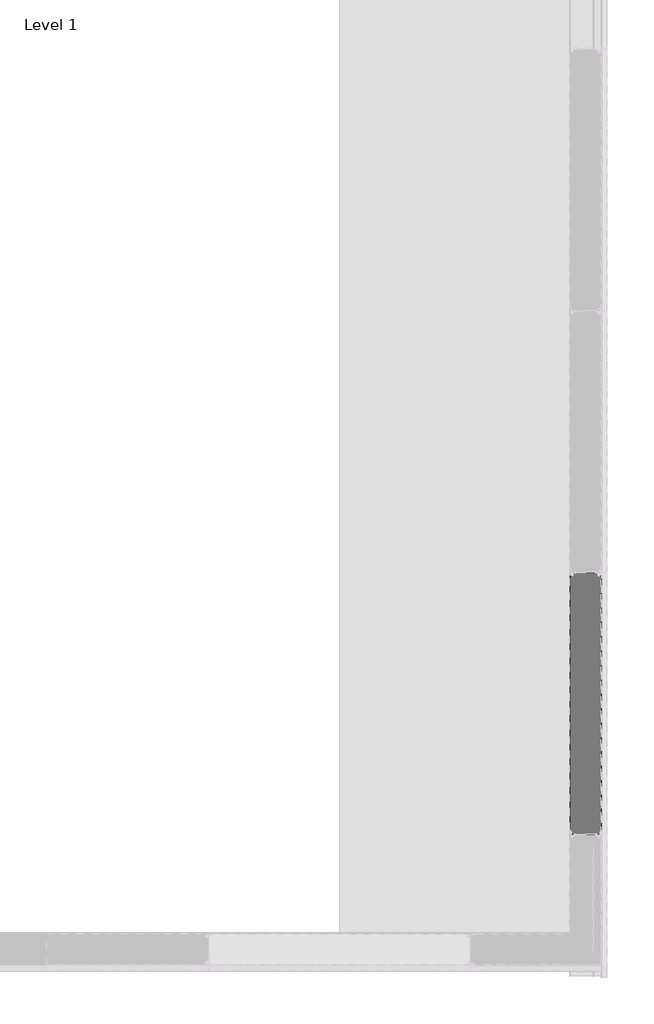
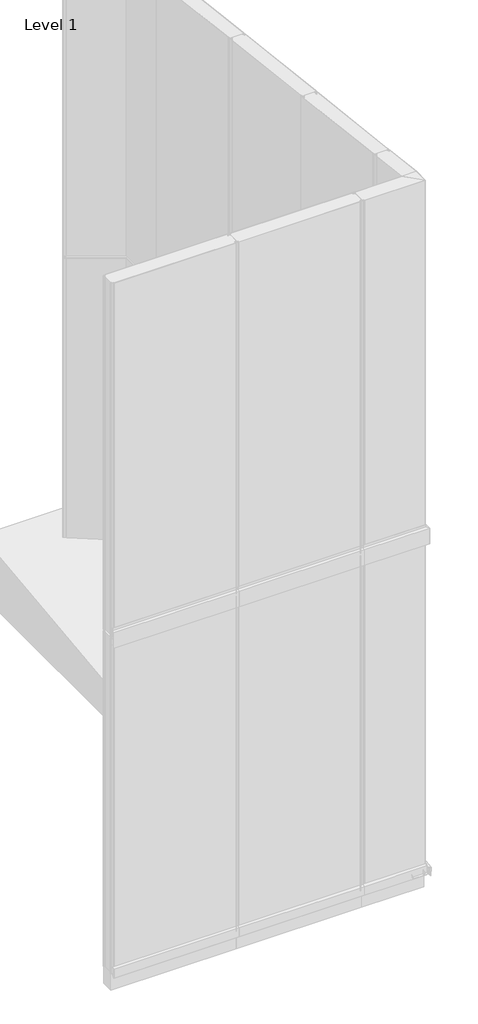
# One storey, part 4 of 16: 1 plate.
"""IFC4 building model written with IfcOpenShell, lengths in millimetres."""

from ifc_helpers import new_model, si_unit, frame, origin, place, context, project, spatial, polyline, circle_curve, ellipse_curve, element, save
from ifc_brep_helpers import plane_surface, cylinder_surface, revolved_surface, advanced_brep

model = new_model("IFC4")

# Units and contexts
model_context = context("Model", 3, world=origin())
ifc_project = project(units=[si_unit("LENGTHUNIT", "METRE", prefix="MILLI")], contexts=[model_context])

# Site, building, storey
site = spatial("IfcSite", under=ifc_project)
building = spatial("IfcBuilding", under=site)
storey = spatial("IfcBuildingStorey", under=building, Name="Level 1", Elevation=0.0)

# Plate
placement = place(None, origin())
element("IfcPlate", 1, ObjectType="TR_C_V_FTV_Panel : 120/RAL9006/RAL9002", at=placement, inside=storey, context=model_context, shape_type="AdvancedBrep", body=[
    advanced_brep(
    [(-11.0024729, 4469.8069107, 2980.0), (-15.1155057, 4469.8069107, 2980.0), (-15.1155057, 4469.0069107, 2980.0), (-11.0024729, 4469.0069107, 2980.0), (-7.3094438, 4465.9080913, 2980.0), (-6.5661308, 4461.6925541, 2980.0), (-0.1155057, 4462.2569107, 2980.0), (-0.1155057, 4477.0069107, 2980.0), (0.6167274, 4478.7746776, 2980.0), (5.0058147, 4483.1637649, 2980.0), (5.8844943, 4485.2850853, 2980.0), (5.8844943, 5474.6255398, 2980.0), (5.079038, 5476.5700835, 2980.0), (3.2133526, 5478.4357689, 2980.0), (-0.1155057, 5477.0569107, 2980.0), (-0.1155057, 5459.4569107, 2980.0), (-6.9630924, 5458.8578244, 2980.0), (-8.0299177, 5464.9080913, 2980.0), (-11.7229468, 5468.0069107, 2980.0), (-15.1155057, 5468.0069107, 2980.0), (-15.1155057, 5467.2069107, 2980.0), (-11.7229468, 5467.2069107, 2980.0), (-8.8177639, 5464.7691728, 2980.0), (-7.7509386, 5458.7189059, 2980.0), (0.6844943, 5459.4569107, 2980.0), (0.6844943, 5477.0569107, 2980.0), (2.6476671, 5477.8700835, 2980.0), (4.5133526, 5476.004398, 2980.0), (5.0844943, 5474.6255398, 2980.0), (5.0844943, 4485.2850853, 2980.0), (4.4401293, 4483.7294503, 2980.0), (0.051042, 4479.340363, 2980.0), (-0.9155057, 4477.0069107, 2980.0), (-0.9155057, 4462.2569107, 2980.0), (-5.7782846, 4461.8314726, 2980.0), (-6.5215976, 4466.0470099, 2980.0), (-11.0024729, 4469.8069107, 194.2093022), (-15.1155057, 4469.8069107, 194.2093022), (-15.1155057, 4469.0069107, 194.1162789), (-11.0024729, 4469.0069107, 194.1162789), (-7.3094438, 4465.9080913, 193.7559511), (-6.5661308, 4461.6925541, 193.2657723), (-0.1155057, 4462.2569107, 193.3313952), (-0.1155057, 4477.0069107, 195.0465115), (0.6167274, 4478.7746776, 195.2520658), (5.0058147, 4483.1637649, 195.7624247), (5.8844943, 4485.2850853, 196.0090899), (5.8844943, 5474.6255398, 311.0486776), (5.079038, 5476.5700835, 311.2747874), (3.2133526, 5478.4357689, 311.4917275), (-0.1155057, 5477.0569107, 311.3313952), (-0.1155057, 5459.4569107, 309.2848835), (-6.9630924, 5458.8578244, 309.2152224), (-8.0299177, 5464.9080913, 309.9187418), (-11.7229468, 5468.0069107, 310.2790696), (-15.1155057, 5468.0069107, 310.2790696), (-15.1155057, 5467.2069107, 310.1860463), (-11.7229468, 5467.2069107, 310.1860463), (-8.8177639, 5464.7691728, 309.9025884), (-7.7509386, 5458.7189059, 309.199069), (0.6844943, 5459.4569107, 309.2848835), (0.6844943, 5477.0569107, 311.3313952), (2.6476671, 5477.8700835, 311.4259502), (4.5133526, 5476.004398, 311.20901), (5.0844943, 5474.6255398, 311.0486776), (5.0844943, 4485.2850853, 196.0090899), (4.4401293, 4483.7294503, 195.8282021), (0.051042, 4479.340363, 195.3178431), (-0.9155057, 4477.0069107, 195.0465115), (-0.9155057, 4462.2569107, 193.3313952), (-5.7782846, 4461.8314726, 193.2819256), (-6.5215976, 4466.0470099, 193.7721044)],
    [
        (0, 1),
        (1, 2),
        (2, 3),
        (3, 4, circle_curve(frame((-11.0024729, 4465.2569107, 2980.0), z_axis=(0.0, 0.0, -1.0), x_axis=(0.0, -1.0, 0.0)), 3.75)),
        (4, 5),
        (5, 6, circle_curve(frame((-3.3655057, 4462.2569107, 2980.0), z_axis=(0.0, 0.0, 1.0), x_axis=(0.0, -1.0, 0.0)), 3.25)),
        (6, 7),
        (7, 8, circle_curve(frame((2.3844943, 4477.0069107, 2980.0), z_axis=(0.0, 0.0, -1.0), x_axis=(0.0, -1.0, 0.0)), 2.5)),
        (8, 9),
        (9, 10, circle_curve(frame((2.8844943, 4485.2850853, 2980.0), z_axis=(0.0, 0.0, 1.0), x_axis=(0.0, -1.0, 0.0)), 3.0)),
        (10, 11),
        (11, 12, circle_curve(frame((3.1344943, 5474.6255398, 2980.0), z_axis=(0.0, 0.0, 1.0), x_axis=(0.0, -1.0, 0.0)), 2.75)),
        (12, 13),
        (13, 14, circle_curve(frame((1.8344943, 5477.0569107, 2980.0), z_axis=(0.0, 0.0, 1.0), x_axis=(0.0, -1.0, 0.0)), 1.95)),
        (14, 15),
        (15, 16, circle_curve(frame((-3.5655057, 5459.4569107, 2980.0), z_axis=(0.0, 0.0, -1.0), x_axis=(0.0, -1.0, 0.0)), 3.45)),
        (16, 17),
        (17, 18, circle_curve(frame((-11.7229468, 5464.2569107, 2980.0), z_axis=(0.0, 0.0, 1.0), x_axis=(0.0, -1.0, 0.0)), 3.75)),
        (18, 19),
        (19, 20),
        (20, 21),
        (21, 22, circle_curve(frame((-11.7229468, 5464.2569107, 2980.0), z_axis=(0.0, 0.0, -1.0), x_axis=(0.0, -1.0, 0.0)), 2.95)),
        (22, 23),
        (23, 24, circle_curve(frame((-3.5655057, 5459.4569107, 2980.0), z_axis=(0.0, 0.0, 1.0), x_axis=(0.0, -1.0, 0.0)), 4.25)),
        (24, 25),
        (25, 26, circle_curve(frame((1.8344943, 5477.0569107, 2980.0), z_axis=(0.0, 0.0, -1.0), x_axis=(0.0, -1.0, 0.0)), 1.15)),
        (26, 27),
        (27, 28, circle_curve(frame((3.1344943, 5474.6255398, 2980.0), z_axis=(0.0, 0.0, -1.0), x_axis=(0.0, -1.0, 0.0)), 1.95)),
        (28, 29),
        (29, 30, circle_curve(frame((2.8844943, 4485.2850853, 2980.0), z_axis=(0.0, 0.0, -1.0), x_axis=(0.0, -1.0, 0.0)), 2.2)),
        (30, 31),
        (31, 32, circle_curve(frame((2.3844943, 4477.0069107, 2980.0), z_axis=(0.0, 0.0, 1.0), x_axis=(0.0, -1.0, 0.0)), 3.3)),
        (32, 33),
        (33, 34, circle_curve(frame((-3.3655057, 4462.2569107, 2980.0), z_axis=(0.0, 0.0, -1.0), x_axis=(0.0, -1.0, 0.0)), 2.45)),
        (34, 35),
        (35, 0, circle_curve(frame((-11.0024729, 4465.2569107, 2980.0), z_axis=(0.0, 0.0, 1.0), x_axis=(0.0, -1.0, 0.0)), 4.55)),
        (0, 36),
        (36, 37),
        (37, 1),
        (37, 38),
        (38, 2),
        (38, 39),
        (39, 3),
        (39, 40, ellipse_curve(frame((-11.0024729, 4465.2569107, 193.6802324), z_axis=(0.0, 0.11550085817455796, -0.9933073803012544), x_axis=(0.0, -0.9933073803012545, -0.11550085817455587)), 3.7752664, 3.75)),
        (40, 4),
        (40, 41),
        (41, 5),
        (41, 42, ellipse_curve(frame((-3.3655057, 4462.2569107, 193.3313952), z_axis=(0.0, -0.11550085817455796, 0.9933073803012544), x_axis=(0.0, 0.9933073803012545, 0.11550085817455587)), 3.2718976, 3.25)),
        (42, 6),
        (42, 43),
        (43, 7),
        (43, 44, ellipse_curve(frame((2.3844943, 4477.0069107, 195.0465115), z_axis=(0.0, 0.11550085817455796, -0.9933073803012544), x_axis=(0.0, -0.9933073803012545, -0.11550085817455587)), 2.5168443, 2.5)),
        (44, 8),
        (44, 45),
        (45, 9),
        (45, 46, ellipse_curve(frame((2.8844943, 4485.2850853, 196.0090899), z_axis=(0.0, -0.11550085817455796, 0.9933073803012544), x_axis=(0.0, 0.9933073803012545, 0.11550085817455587)), 3.0202131, 3.0)),
        (46, 10),
        (46, 47),
        (47, 11),
        (47, 48, ellipse_curve(frame((3.1344943, 5474.6255398, 311.0486776), z_axis=(0.0, -0.11550085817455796, 0.9933073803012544), x_axis=(0.0, 0.9933073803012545, 0.11550085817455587)), 2.7685287, 2.75)),
        (48, 12),
        (48, 49),
        (49, 13),
        (49, 50, ellipse_curve(frame((1.8344943, 5477.0569107, 311.3313952), z_axis=(0.0, -0.11550085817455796, 0.9933073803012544), x_axis=(0.0, 0.9933073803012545, 0.11550085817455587)), 1.9631385, 1.95)),
        (50, 14),
        (50, 51),
        (51, 15),
        (51, 52, ellipse_curve(frame((-3.5655057, 5459.4569107, 309.2848835), z_axis=(0.0, 0.11550085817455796, -0.9933073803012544), x_axis=(0.0, -0.9933073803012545, -0.11550085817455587)), 3.4732451, 3.45)),
        (52, 16),
        (52, 53),
        (53, 17),
        (53, 54, ellipse_curve(frame((-11.7229468, 5464.2569107, 309.8430231), z_axis=(0.0, -0.11550085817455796, 0.9933073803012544), x_axis=(0.0, 0.9933073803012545, 0.11550085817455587)), 3.7752664, 3.75)),
        (54, 18),
        (54, 55),
        (55, 19),
        (55, 56),
        (56, 20),
        (56, 57),
        (57, 21),
        (57, 58, ellipse_curve(frame((-11.7229468, 5464.2569107, 309.8430231), z_axis=(0.0, 0.11550085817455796, -0.9933073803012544), x_axis=(0.0, -0.9933073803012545, -0.11550085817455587)), 2.9698763, 2.95)),
        (58, 22),
        (58, 59),
        (59, 23),
        (59, 60, ellipse_curve(frame((-3.5655057, 5459.4569107, 309.2848835), z_axis=(0.0, -0.11550085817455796, 0.9933073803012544), x_axis=(0.0, 0.9933073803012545, 0.11550085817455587)), 4.2786353, 4.25)),
        (60, 24),
        (60, 61),
        (61, 25),
        (61, 62, ellipse_curve(frame((1.8344943, 5477.0569107, 311.3313952), z_axis=(0.0, 0.11550085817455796, -0.9933073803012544), x_axis=(0.0, -0.9933073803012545, -0.11550085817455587)), 1.1577484, 1.15)),
        (62, 26),
        (62, 63),
        (63, 27),
        (63, 64, ellipse_curve(frame((3.1344943, 5474.6255398, 311.0486776), z_axis=(0.0, 0.11550085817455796, -0.9933073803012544), x_axis=(0.0, -0.9933073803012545, -0.11550085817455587)), 1.9631385, 1.95)),
        (64, 28),
        (64, 65),
        (65, 29),
        (65, 66, ellipse_curve(frame((2.8844943, 4485.2850853, 196.0090899), z_axis=(0.0, 0.11550085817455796, -0.9933073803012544), x_axis=(0.0, -0.9933073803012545, -0.11550085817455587)), 2.214823, 2.2)),
        (66, 30),
        (66, 67),
        (67, 31),
        (67, 68, ellipse_curve(frame((2.3844943, 4477.0069107, 195.0465115), z_axis=(0.0, -0.11550085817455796, 0.9933073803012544), x_axis=(0.0, 0.9933073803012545, 0.11550085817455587)), 3.3222345, 3.3)),
        (68, 32),
        (68, 69),
        (69, 33),
        (69, 70, ellipse_curve(frame((-3.3655057, 4462.2569107, 193.3313952), z_axis=(0.0, 0.11550085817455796, -0.9933073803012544), x_axis=(0.0, -0.9933073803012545, -0.11550085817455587)), 2.4665074, 2.45)),
        (70, 34),
        (70, 71),
        (71, 35),
        (71, 36, ellipse_curve(frame((-11.0024729, 4465.2569107, 193.6802324), z_axis=(0.0, -0.11550085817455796, 0.9933073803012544), x_axis=(0.0, 0.9933073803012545, 0.11550085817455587)), 4.5806566, 4.55)),
    ],
    [
        plane_surface(frame((-15.1155057, 4469.8069107, 2980.0), z_axis=(0.0, 0.0, 1.0), x_axis=(-1.0, 0.0, 0.0))),
        plane_surface(frame((-11.0024729, 4469.8069107, 2980.0), z_axis=(0.0, 1.0, 0.0), x_axis=(0.0, 0.0, -1.0))),
        plane_surface(frame((-15.1155057, 4469.8069107, 2980.0), z_axis=(-1.0, 0.0, 0.0), x_axis=(0.0, 0.0, -1.0))),
        plane_surface(frame((-15.1155057, 4469.0069107, 2980.0), z_axis=(0.0, -1.0, 0.0), x_axis=(0.0, 0.0, -1.0))),
        revolved_surface(polyline([(-11.0024729, 4461.5069107, 193.24418589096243), (-11.0024729, 4461.5069107, 2980.0)]), (-11.0024729, 4465.2569107, 150.0), (0.0, 0.0, -1.0)),
        plane_surface(frame((-7.3094438, 4465.9080913, 2980.0), z_axis=(-0.9848077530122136, -0.17364817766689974, 0.0), x_axis=(0.0, 0.0, -1.0))),
        cylinder_surface(frame((-3.3655057, 4462.2569107, 150.0), z_axis=(0.0, 0.0, 1.0), x_axis=(0.0, -1.0, 0.0)), 3.25),
        plane_surface(frame((-0.1155057, 4462.2569107, 2980.0), z_axis=(1.0, 0.0, 0.0), x_axis=(0.0, 0.0, -1.0))),
        revolved_surface(polyline([(2.3844943, 4474.5069107, 194.75581382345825), (2.3844943, 4474.5069107, 2980.0)]), (2.3844943, 4477.0069107, 150.0), (0.0, 0.0, -1.0)),
        plane_surface(frame((0.6167274, 4478.7746776, 2980.0), z_axis=(0.7071067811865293, -0.7071067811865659, 0.0), x_axis=(0.0, 0.0, -1.0))),
        cylinder_surface(frame((2.8844943, 4485.2850853, 150.0), z_axis=(0.0, 0.0, 1.0), x_axis=(0.0, -1.0, 0.0)), 3.0),
        plane_surface(frame((5.8844943, 4485.2850853, 2980.0), z_axis=(1.0, 0.0, 0.0), x_axis=(0.0, 0.0, -1.0))),
        cylinder_surface(frame((3.1344943, 5474.6255398, 150.0), z_axis=(0.0, 0.0, 1.0), x_axis=(0.0, -1.0, 0.0)), 2.75),
        plane_surface(frame((5.079038, 5476.5700835, 2980.0), z_axis=(0.7071067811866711, 0.707106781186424, 0.0), x_axis=(0.0, 0.0, -1.0))),
        cylinder_surface(frame((1.8344943, 5477.0569107, 150.0), z_axis=(0.0, 0.0, 1.0), x_axis=(0.0, -1.0, 0.0)), 1.95),
        plane_surface(frame((-0.1155057, 5477.0569107, 2980.0), z_axis=(-1.0, 0.0, 0.0), x_axis=(0.0, 0.0, -1.0))),
        revolved_surface(polyline([(-3.5655057, 5456.0069107, 308.8837207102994), (-3.5655057, 5456.0069107, 2980.0)]), (-3.5655057, 5459.4569107, 150.0), (0.0, 0.0, -1.0)),
        plane_surface(frame((-6.9630924, 5458.8578244, 2980.0), z_axis=(0.9848077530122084, 0.17364817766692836, 0.0), x_axis=(0.0, 0.0, -1.0))),
        cylinder_surface(frame((-11.7229468, 5464.2569107, 150.0), z_axis=(0.0, 0.0, 1.0), x_axis=(0.0, -1.0, 0.0)), 3.75),
        plane_surface(frame((-11.7229468, 5468.0069107, 2980.0), z_axis=(0.0, 1.0, 0.0), x_axis=(0.0, 0.0, -1.0))),
        plane_surface(frame((-15.1155057, 5468.0069107, 2980.0), z_axis=(-1.0, 0.0, 0.0), x_axis=(0.0, 0.0, -1.0))),
        plane_surface(frame((-15.1155057, 5467.2069107, 2980.0), z_axis=(0.0, -1.0, 0.0), x_axis=(0.0, 0.0, -1.0))),
        revolved_surface(polyline([(-11.7229468, 5461.3069107, 309.4999998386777), (-11.7229468, 5461.3069107, 2980.0)]), (-11.7229468, 5464.2569107, 150.0), (0.0, 0.0, -1.0)),
        plane_surface(frame((-8.8177639, 5464.7691728, 2980.0), z_axis=(-0.9848077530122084, -0.17364817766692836, 0.0), x_axis=(0.0, 0.0, -1.0))),
        cylinder_surface(frame((-3.5655057, 5459.4569107, 150.0), z_axis=(0.0, 0.0, 1.0), x_axis=(0.0, -1.0, 0.0)), 4.25),
        plane_surface(frame((0.6844943, 5459.4569107, 2980.0), z_axis=(1.0, 0.0, 0.0), x_axis=(0.0, 0.0, -1.0))),
        revolved_surface(polyline([(1.8344943, 5475.9069107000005, 311.19767426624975), (1.8344943, 5475.9069107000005, 2980.0)]), (1.8344943, 5477.0569107, 150.0), (0.0, 0.0, -1.0)),
        plane_surface(frame((2.6476671, 5477.8700835, 2980.0), z_axis=(-0.7071067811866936, -0.7071067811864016, 0.0), x_axis=(0.0, 0.0, -1.0))),
        revolved_surface(polyline([(3.1344943, 5472.6755398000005, 310.8219334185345), (3.1344943, 5472.6755398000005, 2980.0)]), (3.1344943, 5474.6255398, 150.0), (0.0, 0.0, -1.0)),
        plane_surface(frame((5.0844943, 5474.6255398, 2980.0), z_axis=(-1.0, 0.0, 0.0), x_axis=(0.0, 0.0, -1.0))),
        revolved_surface(polyline([(2.8844943, 4483.0850853, 195.75327594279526), (2.8844943, 4483.0850853, 2980.0)]), (2.8844943, 4485.2850853, 150.0), (0.0, 0.0, -1.0)),
        plane_surface(frame((4.4401293, 4483.7294503, 2980.0), z_axis=(-0.7071067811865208, 0.7071067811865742, 0.0), x_axis=(0.0, 0.0, -1.0))),
        cylinder_surface(frame((2.3844943, 4477.0069107, 150.0), z_axis=(0.0, 0.0, 1.0), x_axis=(0.0, -1.0, 0.0)), 3.3),
        plane_surface(frame((-0.9155057, 4477.0069107, 2980.0), z_axis=(-1.0, 0.0, 0.0), x_axis=(0.0, 0.0, -1.0))),
        revolved_surface(polyline([(-3.3655057, 4459.8069107, 193.0465114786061), (-3.3655057, 4459.8069107, 2980.0)]), (-3.3655057, 4462.2569107, 150.0), (0.0, 0.0, -1.0)),
        plane_surface(frame((-5.7782846, 4461.8314726, 2980.0), z_axis=(0.9848077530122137, 0.17364817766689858, 0.0), x_axis=(0.0, 0.0, -1.0))),
        cylinder_surface(frame((-11.0024729, 4465.2569107, 150.0), z_axis=(0.0, 0.0, 1.0), x_axis=(0.0, -1.0, 0.0)), 4.55),
        plane_surface(frame((5.8844943, 6239.6069121, 400.0), z_axis=(0.0, 0.11550085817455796, -0.9933073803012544), x_axis=(0.0, 0.9933073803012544, 0.11550085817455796))),
    ],
    [
        (0, [[1, 2, 3, 4, 5, 6, 7, 8, 9, 10, 11, 12, 13, 14, 15, 16, 17, 18, 19, 20, 21, 22, 23, 24, 25, 26, 27, 28, 29, 30, 31, 32, 33, 34, 35, 36]]),
        (1, [[-1, 37, 38, 39]]),
        (2, [[-2, -39, 40, 41]]),
        (3, [[-3, -41, 42, 43]]),
        (4, [[-4, -43, 44, 45]]),
        (5, [[-5, -45, 46, 47]]),
        (6, [[-6, -47, 48, 49]]),
        (7, [[-7, -49, 50, 51]]),
        (8, [[-8, -51, 52, 53]]),
        (9, [[-9, -53, 54, 55]]),
        (10, [[-10, -55, 56, 57]]),
        (11, [[-11, -57, 58, 59]]),
        (12, [[-12, -59, 60, 61]]),
        (13, [[-13, -61, 62, 63]]),
        (14, [[-14, -63, 64, 65]]),
        (15, [[-15, -65, 66, 67]]),
        (16, [[-16, -67, 68, 69]]),
        (17, [[-17, -69, 70, 71]]),
        (18, [[-18, -71, 72, 73]]),
        (19, [[-19, -73, 74, 75]]),
        (20, [[-20, -75, 76, 77]]),
        (21, [[-21, -77, 78, 79]]),
        (22, [[-22, -79, 80, 81]]),
        (23, [[-23, -81, 82, 83]]),
        (24, [[-24, -83, 84, 85]]),
        (25, [[-25, -85, 86, 87]]),
        (26, [[-26, -87, 88, 89]]),
        (27, [[-27, -89, 90, 91]]),
        (28, [[-28, -91, 92, 93]]),
        (29, [[-29, -93, 94, 95]]),
        (30, [[-30, -95, 96, 97]]),
        (31, [[-31, -97, 98, 99]]),
        (32, [[-32, -99, 100, 101]]),
        (33, [[-33, -101, 102, 103]]),
        (34, [[-34, -103, 104, 105]]),
        (35, [[-35, -105, 106, 107]]),
        (36, [[-36, -107, 108, -37]]),
        (37, [[-38, -108, -106, -104, -102, -100, -98, -96, -94, -92, -90, -88, -86, -84, -82, -80, -78, -76, -74, -72, -70, -68, -66, -64, -62, -60, -58, -56, -54, -52, -50, -48, -46, -44, -42, -40]]),
    ],
),
    advanced_brep(
    [(-17.8155057, 5469.6069107, 2980.0), (-90.4155057, 5469.6069107, 2980.0), (-90.4155057, 5467.2069107, 2980.0), (-96.5080645, 5467.2069107, 2980.0), (-99.4132474, 5464.7691728, 2980.0), (-100.4800727, 5458.7189059, 2980.0), (-104.6655057, 5455.2069107, 2980.0), (-113.3155057, 5455.2069107, 2980.0), (-113.3155057, 4485.2850853, 2980.0), (-112.6711406, 4483.7294503, 2980.0), (-108.2820533, 4479.340363, 2980.0), (-107.3155057, 4477.0069107, 2980.0), (-107.3155057, 4469.6069118, 2980.0), (-0.9155057, 4469.6069118, 2980.0), (-0.9155057, 4477.0069107, 2980.0), (0.051042, 4479.340363, 2980.0), (4.4401293, 4483.7294503, 2980.0), (5.0844943, 4485.2850853, 2980.0), (5.0844943, 5455.2069107, 2980.0), (-3.5655057, 5455.2069107, 2980.0), (-7.7509386, 5458.7189059, 2980.0), (-8.8177639, 5464.7691728, 2980.0), (-11.7229468, 5467.2069107, 2980.0), (-17.8155057, 5467.2069107, 2980.0), (-17.8155057, 5469.6069107, 310.4651161), (-90.4155057, 5469.6069107, 310.4651161), (-90.4155057, 5467.2069107, 310.1860463), (-96.5080645, 5467.2069107, 310.1860463), (-99.4132474, 5464.7691728, 309.9025884), (-100.4800727, 5458.7189059, 309.199069), (-104.6655057, 5455.2069107, 308.7906975), (-113.3155057, 5455.2069107, 308.7906975), (-113.3155057, 4485.2850853, 196.0090899), (-112.6711406, 4483.7294503, 195.8282021), (-108.2820533, 4479.340363, 195.3178431), (-107.3155057, 4477.0069107, 195.0465115), (-107.3155057, 4469.6069118, 194.1860465), (-0.9155057, 4469.6069118, 194.1860465), (-0.9155057, 4477.0069107, 195.0465115), (0.051042, 4479.340363, 195.3178431), (4.4401293, 4483.7294503, 195.8282021), (5.0844943, 4485.2850853, 196.0090899), (5.0844943, 5455.2069107, 308.7906975), (-3.5655057, 5455.2069107, 308.7906975), (-7.7509386, 5458.7189059, 309.199069), (-8.8177639, 5464.7691728, 309.9025884), (-11.7229468, 5467.2069107, 310.1860463), (-17.8155057, 5467.2069107, 310.1860463)],
    [
        (0, 1),
        (1, 2),
        (2, 3),
        (3, 4, circle_curve(frame((-96.5080645, 5464.2569107, 2980.0), z_axis=(0.0, 0.0, 1.0), x_axis=(0.0, -1.0, 0.0)), 2.95)),
        (4, 5),
        (5, 6, circle_curve(frame((-104.6655057, 5459.4569107, 2980.0), z_axis=(0.0, 0.0, -1.0), x_axis=(0.0, -1.0, 0.0)), 4.25)),
        (6, 7),
        (7, 8),
        (8, 9, circle_curve(frame((-111.1155057, 4485.2850853, 2980.0), z_axis=(0.0, 0.0, 1.0), x_axis=(0.0, -1.0, 0.0)), 2.2)),
        (9, 10),
        (10, 11, circle_curve(frame((-110.6155057, 4477.0069107, 2980.0), z_axis=(0.0, 0.0, -1.0), x_axis=(0.0, -1.0, 0.0)), 3.3)),
        (11, 12),
        (12, 13),
        (13, 14),
        (14, 15, circle_curve(frame((2.3844943, 4477.0069107, 2980.0), z_axis=(0.0, 0.0, -1.0), x_axis=(0.0, -1.0, 0.0)), 3.3)),
        (15, 16),
        (16, 17, circle_curve(frame((2.8844943, 4485.2850853, 2980.0), z_axis=(0.0, 0.0, 1.0), x_axis=(0.0, -1.0, 0.0)), 2.2)),
        (17, 18),
        (18, 19),
        (19, 20, circle_curve(frame((-3.5655057, 5459.4569107, 2980.0), z_axis=(0.0, 0.0, -1.0), x_axis=(0.0, -1.0, 0.0)), 4.25)),
        (20, 21),
        (21, 22, circle_curve(frame((-11.7229468, 5464.2569107, 2980.0), z_axis=(0.0, 0.0, 1.0), x_axis=(0.0, -1.0, 0.0)), 2.95)),
        (22, 23),
        (23, 0),
        (0, 24),
        (24, 25),
        (25, 1),
        (25, 26),
        (26, 2),
        (26, 27),
        (27, 3),
        (27, 28, ellipse_curve(frame((-96.5080645, 5464.2569107, 309.8430231), z_axis=(0.0, -0.11550085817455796, 0.9933073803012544), x_axis=(0.0, 0.9933073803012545, 0.11550085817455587)), 2.9698763, 2.95)),
        (28, 4),
        (28, 29),
        (29, 5),
        (29, 30, ellipse_curve(frame((-104.6655057, 5459.4569107, 309.2848835), z_axis=(0.0, 0.11550085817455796, -0.9933073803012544), x_axis=(0.0, -0.9933073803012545, -0.11550085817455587)), 4.2786353, 4.25)),
        (30, 6),
        (30, 31),
        (31, 7),
        (31, 32),
        (32, 8),
        (32, 33, ellipse_curve(frame((-111.1155057, 4485.2850853, 196.0090899), z_axis=(0.0, -0.11550085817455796, 0.9933073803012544), x_axis=(0.0, 0.9933073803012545, 0.11550085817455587)), 2.214823, 2.2)),
        (33, 9),
        (33, 34),
        (34, 10),
        (34, 35, ellipse_curve(frame((-110.6155057, 4477.0069107, 195.0465115), z_axis=(0.0, 0.11550085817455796, -0.9933073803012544), x_axis=(0.0, -0.9933073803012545, -0.11550085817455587)), 3.3222345, 3.3)),
        (35, 11),
        (35, 36),
        (36, 12),
        (36, 37),
        (37, 13),
        (37, 38),
        (38, 14),
        (38, 39, ellipse_curve(frame((2.3844943, 4477.0069107, 195.0465115), z_axis=(0.0, 0.11550085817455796, -0.9933073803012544), x_axis=(0.0, -0.9933073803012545, -0.11550085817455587)), 3.3222345, 3.3)),
        (39, 15),
        (39, 40),
        (40, 16),
        (40, 41, ellipse_curve(frame((2.8844943, 4485.2850853, 196.0090899), z_axis=(0.0, -0.11550085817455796, 0.9933073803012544), x_axis=(0.0, 0.9933073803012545, 0.11550085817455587)), 2.214823, 2.2)),
        (41, 17),
        (41, 42),
        (42, 18),
        (42, 43),
        (43, 19),
        (43, 44, ellipse_curve(frame((-3.5655057, 5459.4569107, 309.2848835), z_axis=(0.0, 0.11550085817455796, -0.9933073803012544), x_axis=(0.0, -0.9933073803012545, -0.11550085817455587)), 4.2786353, 4.25)),
        (44, 20),
        (44, 45),
        (45, 21),
        (45, 46, ellipse_curve(frame((-11.7229468, 5464.2569107, 309.8430231), z_axis=(0.0, -0.11550085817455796, 0.9933073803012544), x_axis=(0.0, 0.9933073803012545, 0.11550085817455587)), 2.9698763, 2.95)),
        (46, 22),
        (46, 47),
        (47, 23),
        (47, 24),
    ],
    [
        plane_surface(frame((-90.4155057, 5469.6069107, 2980.0), z_axis=(0.0, 0.0, 1.0), x_axis=(-1.0, 0.0, 0.0))),
        plane_surface(frame((-17.8155057, 5469.6069107, 2980.0), z_axis=(0.0, 1.0, 0.0), x_axis=(0.0, 0.0, -1.0))),
        plane_surface(frame((-90.4155057, 5469.6069107, 2980.0), z_axis=(-1.0, 0.0, 0.0), x_axis=(0.0, 0.0, -1.0))),
        plane_surface(frame((-90.4155057, 5467.2069107, 2980.0), z_axis=(0.0, 1.0, 0.0), x_axis=(0.0, 0.0, -1.0))),
        cylinder_surface(frame((-96.5080645, 5464.2569107, 150.0), z_axis=(0.0, 0.0, 1.0), x_axis=(0.0, -1.0, 0.0)), 2.95),
        plane_surface(frame((-99.4132474, 5464.7691728, 2980.0), z_axis=(-0.9848077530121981, 0.17364817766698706, 0.0), x_axis=(0.0, 0.0, -1.0))),
        revolved_surface(polyline([(-104.6655057, 5455.2069107, 308.790697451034), (-104.6655057, 5455.2069107, 2980.0)]), (-104.6655057, 5459.4569107, 150.0), (0.0, 0.0, -1.0)),
        plane_surface(frame((-104.6655057, 5455.2069107, 2980.0), z_axis=(0.0, 1.0, 0.0), x_axis=(0.0, 0.0, -1.0))),
        plane_surface(frame((-113.3155057, 5455.2069107, 2980.0), z_axis=(-1.0, 0.0, 0.0), x_axis=(0.0, 0.0, -1.0))),
        cylinder_surface(frame((-111.1155057, 4485.2850853, 150.0), z_axis=(0.0, 0.0, 1.0), x_axis=(0.0, -1.0, 0.0)), 2.2),
        plane_surface(frame((-112.6711406, 4483.7294503, 2980.0), z_axis=(-0.7071067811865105, -0.7071067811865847, 0.0), x_axis=(0.0, 0.0, -1.0))),
        revolved_surface(polyline([(-110.6155057, 4473.7069107, 194.6627905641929), (-110.6155057, 4473.7069107, 2980.0)]), (-110.6155057, 4477.0069107, 150.0), (0.0, 0.0, -1.0)),
        plane_surface(frame((-107.3155057, 4477.0069107, 2980.0), z_axis=(-1.0, 0.0, 0.0), x_axis=(0.0, 0.0, -1.0))),
        plane_surface(frame((-107.3155057, 4469.6069118, 2980.0), z_axis=(0.0, -1.0, 0.0), x_axis=(0.0, 0.0, -1.0))),
        plane_surface(frame((-0.9155057, 4469.6069118, 2980.0), z_axis=(1.0, 0.0, 0.0), x_axis=(0.0, 0.0, -1.0))),
        revolved_surface(polyline([(2.3844943, 4473.7069107, 194.6627905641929), (2.3844943, 4473.7069107, 2980.0)]), (2.3844943, 4477.0069107, 150.0), (0.0, 0.0, -1.0)),
        plane_surface(frame((0.051042, 4479.340363, 2980.0), z_axis=(0.7071067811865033, -0.7071067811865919, 0.0), x_axis=(0.0, 0.0, -1.0))),
        cylinder_surface(frame((2.8844943, 4485.2850853, 150.0), z_axis=(0.0, 0.0, 1.0), x_axis=(0.0, -1.0, 0.0)), 2.2),
        plane_surface(frame((5.0844943, 4485.2850853, 2980.0), z_axis=(1.0, 0.0, 0.0), x_axis=(0.0, 0.0, -1.0))),
        plane_surface(frame((5.0844943, 5455.2069107, 2980.0), z_axis=(0.0, 1.0, 0.0), x_axis=(0.0, 0.0, -1.0))),
        revolved_surface(polyline([(-3.5655057, 5455.2069107, 308.790697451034), (-3.5655057, 5455.2069107, 2980.0)]), (-3.5655057, 5459.4569107, 150.0), (0.0, 0.0, -1.0)),
        plane_surface(frame((-7.7509386, 5458.7189059, 2980.0), z_axis=(0.9848077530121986, 0.17364817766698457, 0.0), x_axis=(0.0, 0.0, -1.0))),
        cylinder_surface(frame((-11.7229468, 5464.2569107, 150.0), z_axis=(0.0, 0.0, 1.0), x_axis=(0.0, -1.0, 0.0)), 2.95),
        plane_surface(frame((-11.7229468, 5467.2069107, 2980.0), z_axis=(0.0, 1.0, 0.0), x_axis=(0.0, 0.0, -1.0))),
        plane_surface(frame((-17.8155057, 5467.2069107, 2980.0), z_axis=(1.0, 0.0, 0.0), x_axis=(0.0, 0.0, -1.0))),
        plane_surface(frame((5.8844943, 6239.6069121, 400.0), z_axis=(0.0, 0.11550085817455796, -0.9933073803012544), x_axis=(0.0, 0.9933073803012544, 0.11550085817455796))),
    ],
    [
        (0, [[1, 2, 3, 4, 5, 6, 7, 8, 9, 10, 11, 12, 13, 14, 15, 16, 17, 18, 19, 20, 21, 22, 23, 24]]),
        (1, [[-1, 25, 26, 27]]),
        (2, [[-2, -27, 28, 29]]),
        (3, [[-3, -29, 30, 31]]),
        (4, [[-4, -31, 32, 33]]),
        (5, [[-5, -33, 34, 35]]),
        (6, [[-6, -35, 36, 37]]),
        (7, [[-7, -37, 38, 39]]),
        (8, [[-8, -39, 40, 41]]),
        (9, [[-9, -41, 42, 43]]),
        (10, [[-10, -43, 44, 45]]),
        (11, [[-11, -45, 46, 47]]),
        (12, [[-12, -47, 48, 49]]),
        (13, [[-13, -49, 50, 51]]),
        (14, [[-14, -51, 52, 53]]),
        (15, [[-15, -53, 54, 55]]),
        (16, [[-16, -55, 56, 57]]),
        (17, [[-17, -57, 58, 59]]),
        (18, [[-18, -59, 60, 61]]),
        (19, [[-19, -61, 62, 63]]),
        (20, [[-20, -63, 64, 65]]),
        (21, [[-21, -65, 66, 67]]),
        (22, [[-22, -67, 68, 69]]),
        (23, [[-23, -69, 70, 71]]),
        (24, [[-24, -71, 72, -25]]),
        (25, [[-26, -72, -70, -68, -66, -64, -62, -60, -58, -56, -54, -52, -50, -48, -46, -44, -42, -40, -38, -36, -34, -32, -30, -28]]),
    ],
),
    advanced_brep(
    [(-97.2285384, 4469.8069107, 2980.0), (-101.7094137, 4466.0470099, 2980.0), (-102.4527267, 4461.8314726, 2980.0), (-107.3155057, 4462.2569107, 2980.0), (-107.3155057, 4477.0069107, 2980.0), (-108.2820533, 4479.340363, 2980.0), (-112.6711406, 4483.7294503, 2980.0), (-113.3155057, 4485.2850853, 2980.0), (-113.3155057, 5474.6255398, 2980.0), (-112.7443639, 5476.004398, 2980.0), (-110.8786785, 5477.8700835, 2980.0), (-108.9155057, 5477.0569107, 2980.0), (-108.9155057, 5459.4569107, 2980.0), (-100.4800727, 5458.7189059, 2980.0), (-99.4132474, 5464.7691728, 2980.0), (-96.5080645, 5467.2069107, 2980.0), (-93.1155057, 5467.2069107, 2980.0), (-93.1155057, 5468.0069107, 2980.0), (-96.5080645, 5468.0069107, 2980.0), (-100.2010936, 5464.9080913, 2980.0), (-101.2679189, 5458.8578244, 2980.0), (-108.1155057, 5459.4569107, 2980.0), (-108.1155057, 5477.0569107, 2980.0), (-111.4443639, 5478.4357689, 2980.0), (-113.3100493, 5476.5700835, 2980.0), (-114.1155057, 5474.6255398, 2980.0), (-114.1155057, 4485.2850853, 2980.0), (-113.236826, 4483.1637649, 2980.0), (-108.8477387, 4478.7746776, 2980.0), (-108.1155057, 4477.0069107, 2980.0), (-108.1155057, 4462.2569107, 2980.0), (-101.6648805, 4461.6925541, 2980.0), (-100.9215675, 4465.9080913, 2980.0), (-97.2285384, 4469.0069107, 2980.0), (-93.1155057, 4469.0069107, 2980.0), (-93.1155057, 4469.8069107, 2980.0), (-97.2285384, 4469.8069107, 194.2093022), (-101.7094137, 4466.0470099, 193.7721044), (-102.4527267, 4461.8314726, 193.2819256), (-107.3155057, 4462.2569107, 193.3313952), (-107.3155057, 4477.0069107, 195.0465115), (-108.2820533, 4479.340363, 195.3178431), (-112.6711406, 4483.7294503, 195.8282021), (-113.3155057, 4485.2850853, 196.0090899), (-113.3155057, 5474.6255398, 311.0486776), (-112.7443639, 5476.004398, 311.20901), (-110.8786785, 5477.8700835, 311.4259502), (-108.9155057, 5477.0569107, 311.3313952), (-108.9155057, 5459.4569107, 309.2848835), (-100.4800727, 5458.7189059, 309.199069), (-99.4132474, 5464.7691728, 309.9025884), (-96.5080645, 5467.2069107, 310.1860463), (-93.1155057, 5467.2069107, 310.1860463), (-93.1155057, 5468.0069107, 310.2790696), (-96.5080645, 5468.0069107, 310.2790696), (-100.2010936, 5464.9080913, 309.9187418), (-101.2679189, 5458.8578244, 309.2152224), (-108.1155057, 5459.4569107, 309.2848835), (-108.1155057, 5477.0569107, 311.3313952), (-111.4443639, 5478.4357689, 311.4917275), (-113.3100493, 5476.5700835, 311.2747874), (-114.1155057, 5474.6255398, 311.0486776), (-114.1155057, 4485.2850853, 196.0090899), (-113.236826, 4483.1637649, 195.7624247), (-108.8477387, 4478.7746776, 195.2520658), (-108.1155057, 4477.0069107, 195.0465115), (-108.1155057, 4462.2569107, 193.3313952), (-101.6648805, 4461.6925541, 193.2657723), (-100.9215675, 4465.9080913, 193.7559511), (-97.2285384, 4469.0069107, 194.1162789), (-93.1155057, 4469.0069107, 194.1162789), (-93.1155057, 4469.8069107, 194.2093022)],
    [
        (0, 1, circle_curve(frame((-97.2285384, 4465.2569107, 2980.0), z_axis=(0.0, 0.0, 1.0), x_axis=(0.0, -1.0, 0.0)), 4.55)),
        (1, 2),
        (2, 3, circle_curve(frame((-104.8655057, 4462.2569107, 2980.0), z_axis=(0.0, 0.0, -1.0), x_axis=(0.0, -1.0, 0.0)), 2.45)),
        (3, 4),
        (4, 5, circle_curve(frame((-110.6155057, 4477.0069107, 2980.0), z_axis=(0.0, 0.0, 1.0), x_axis=(0.0, -1.0, 0.0)), 3.3)),
        (5, 6),
        (6, 7, circle_curve(frame((-111.1155057, 4485.2850853, 2980.0), z_axis=(0.0, 0.0, -1.0), x_axis=(0.0, -1.0, 0.0)), 2.2)),
        (7, 8),
        (8, 9, circle_curve(frame((-111.3655057, 5474.6255398, 2980.0), z_axis=(0.0, 0.0, -1.0), x_axis=(0.0, -1.0, 0.0)), 1.95)),
        (9, 10),
        (10, 11, circle_curve(frame((-110.0655057, 5477.0569107, 2980.0), z_axis=(0.0, 0.0, -1.0), x_axis=(0.0, -1.0, 0.0)), 1.15)),
        (11, 12),
        (12, 13, circle_curve(frame((-104.6655057, 5459.4569107, 2980.0), z_axis=(0.0, 0.0, 1.0), x_axis=(0.0, -1.0, 0.0)), 4.25)),
        (13, 14),
        (14, 15, circle_curve(frame((-96.5080645, 5464.2569107, 2980.0), z_axis=(0.0, 0.0, -1.0), x_axis=(0.0, -1.0, 0.0)), 2.95)),
        (15, 16),
        (16, 17),
        (17, 18),
        (18, 19, circle_curve(frame((-96.5080645, 5464.2569107, 2980.0), z_axis=(0.0, 0.0, 1.0), x_axis=(0.0, -1.0, 0.0)), 3.75)),
        (19, 20),
        (20, 21, circle_curve(frame((-104.6655057, 5459.4569107, 2980.0), z_axis=(0.0, 0.0, -1.0), x_axis=(0.0, -1.0, 0.0)), 3.45)),
        (21, 22),
        (22, 23, circle_curve(frame((-110.0655057, 5477.0569107, 2980.0), z_axis=(0.0, 0.0, 1.0), x_axis=(0.0, -1.0, 0.0)), 1.95)),
        (23, 24),
        (24, 25, circle_curve(frame((-111.3655057, 5474.6255398, 2980.0), z_axis=(0.0, 0.0, 1.0), x_axis=(0.0, -1.0, 0.0)), 2.75)),
        (25, 26),
        (26, 27, circle_curve(frame((-111.1155057, 4485.2850853, 2980.0), z_axis=(0.0, 0.0, 1.0), x_axis=(0.0, -1.0, 0.0)), 3.0)),
        (27, 28),
        (28, 29, circle_curve(frame((-110.6155057, 4477.0069107, 2980.0), z_axis=(0.0, 0.0, -1.0), x_axis=(0.0, -1.0, 0.0)), 2.5)),
        (29, 30),
        (30, 31, circle_curve(frame((-104.8655057, 4462.2569107, 2980.0), z_axis=(0.0, 0.0, 1.0), x_axis=(0.0, -1.0, 0.0)), 3.25)),
        (31, 32),
        (32, 33, circle_curve(frame((-97.2285384, 4465.2569107, 2980.0), z_axis=(0.0, 0.0, -1.0), x_axis=(0.0, -1.0, 0.0)), 3.75)),
        (33, 34),
        (34, 35),
        (35, 0),
        (0, 36),
        (36, 37, ellipse_curve(frame((-97.2285384, 4465.2569107, 193.6802324), z_axis=(0.0, -0.11550085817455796, 0.9933073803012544), x_axis=(0.0, 0.9933073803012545, 0.11550085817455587)), 4.5806566, 4.55)),
        (37, 1),
        (37, 38),
        (38, 2),
        (38, 39, ellipse_curve(frame((-104.8655057, 4462.2569107, 193.3313952), z_axis=(0.0, 0.11550085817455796, -0.9933073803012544), x_axis=(0.0, -0.9933073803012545, -0.11550085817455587)), 2.4665074, 2.45)),
        (39, 3),
        (39, 40),
        (40, 4),
        (40, 41, ellipse_curve(frame((-110.6155057, 4477.0069107, 195.0465115), z_axis=(0.0, -0.11550085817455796, 0.9933073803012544), x_axis=(0.0, 0.9933073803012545, 0.11550085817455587)), 3.3222345, 3.3)),
        (41, 5),
        (41, 42),
        (42, 6),
        (42, 43, ellipse_curve(frame((-111.1155057, 4485.2850853, 196.0090899), z_axis=(0.0, 0.11550085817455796, -0.9933073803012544), x_axis=(0.0, -0.9933073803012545, -0.11550085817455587)), 2.214823, 2.2)),
        (43, 7),
        (43, 44),
        (44, 8),
        (44, 45, ellipse_curve(frame((-111.3655057, 5474.6255398, 311.0486776), z_axis=(0.0, 0.11550085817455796, -0.9933073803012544), x_axis=(0.0, -0.9933073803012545, -0.11550085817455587)), 1.9631385, 1.95)),
        (45, 9),
        (45, 46),
        (46, 10),
        (46, 47, ellipse_curve(frame((-110.0655057, 5477.0569107, 311.3313952), z_axis=(0.0, 0.11550085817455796, -0.9933073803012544), x_axis=(0.0, -0.9933073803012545, -0.11550085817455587)), 1.1577484, 1.15)),
        (47, 11),
        (47, 48),
        (48, 12),
        (48, 49, ellipse_curve(frame((-104.6655057, 5459.4569107, 309.2848835), z_axis=(0.0, -0.11550085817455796, 0.9933073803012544), x_axis=(0.0, 0.9933073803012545, 0.11550085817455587)), 4.2786353, 4.25)),
        (49, 13),
        (49, 50),
        (50, 14),
        (50, 51, ellipse_curve(frame((-96.5080645, 5464.2569107, 309.8430231), z_axis=(0.0, 0.11550085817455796, -0.9933073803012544), x_axis=(0.0, -0.9933073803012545, -0.11550085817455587)), 2.9698763, 2.95)),
        (51, 15),
        (51, 52),
        (52, 16),
        (52, 53),
        (53, 17),
        (53, 54),
        (54, 18),
        (54, 55, ellipse_curve(frame((-96.5080645, 5464.2569107, 309.8430231), z_axis=(0.0, -0.11550085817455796, 0.9933073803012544), x_axis=(0.0, 0.9933073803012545, 0.11550085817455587)), 3.7752664, 3.75)),
        (55, 19),
        (55, 56),
        (56, 20),
        (56, 57, ellipse_curve(frame((-104.6655057, 5459.4569107, 309.2848835), z_axis=(0.0, 0.11550085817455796, -0.9933073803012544), x_axis=(0.0, -0.9933073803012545, -0.11550085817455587)), 3.4732451, 3.45)),
        (57, 21),
        (57, 58),
        (58, 22),
        (58, 59, ellipse_curve(frame((-110.0655057, 5477.0569107, 311.3313952), z_axis=(0.0, -0.11550085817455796, 0.9933073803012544), x_axis=(0.0, 0.9933073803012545, 0.11550085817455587)), 1.9631385, 1.95)),
        (59, 23),
        (59, 60),
        (60, 24),
        (60, 61, ellipse_curve(frame((-111.3655057, 5474.6255398, 311.0486776), z_axis=(0.0, -0.11550085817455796, 0.9933073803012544), x_axis=(0.0, 0.9933073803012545, 0.11550085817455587)), 2.7685287, 2.75)),
        (61, 25),
        (61, 62),
        (62, 26),
        (62, 63, ellipse_curve(frame((-111.1155057, 4485.2850853, 196.0090899), z_axis=(0.0, -0.11550085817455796, 0.9933073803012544), x_axis=(0.0, 0.9933073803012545, 0.11550085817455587)), 3.0202131, 3.0)),
        (63, 27),
        (63, 64),
        (64, 28),
        (64, 65, ellipse_curve(frame((-110.6155057, 4477.0069107, 195.0465115), z_axis=(0.0, 0.11550085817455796, -0.9933073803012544), x_axis=(0.0, -0.9933073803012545, -0.11550085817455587)), 2.5168443, 2.5)),
        (65, 29),
        (65, 66),
        (66, 30),
        (66, 67, ellipse_curve(frame((-104.8655057, 4462.2569107, 193.3313952), z_axis=(0.0, -0.11550085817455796, 0.9933073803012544), x_axis=(0.0, 0.9933073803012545, 0.11550085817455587)), 3.2718976, 3.25)),
        (67, 31),
        (67, 68),
        (68, 32),
        (68, 69, ellipse_curve(frame((-97.2285384, 4465.2569107, 193.6802324), z_axis=(0.0, 0.11550085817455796, -0.9933073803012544), x_axis=(0.0, -0.9933073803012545, -0.11550085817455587)), 3.7752664, 3.75)),
        (69, 33),
        (69, 70),
        (70, 34),
        (70, 71),
        (71, 35),
        (71, 36),
    ],
    [
        plane_surface(frame((-97.2285384, 4460.7069107, 2980.0), z_axis=(0.0, 0.0, 1.0), x_axis=(1.0, 0.0, 0.0))),
        cylinder_surface(frame((-97.2285384, 4465.2569107, 150.0), z_axis=(0.0, 0.0, 1.0), x_axis=(0.0, -1.0, 0.0)), 4.55),
        plane_surface(frame((-101.7094137, 4466.0470099, 2980.0), z_axis=(-0.9848077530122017, 0.17364817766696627, 0.0), x_axis=(0.0, 0.0, -1.0))),
        revolved_surface(polyline([(-104.8655057, 4459.8069107, 193.0465114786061), (-104.8655057, 4459.8069107, 2980.0)]), (-104.8655057, 4462.2569107, 150.0), (0.0, 0.0, -1.0)),
        plane_surface(frame((-107.3155057, 4462.2569107, 2980.0), z_axis=(1.0, 0.0, 0.0), x_axis=(0.0, 0.0, -1.0))),
        cylinder_surface(frame((-110.6155057, 4477.0069107, 150.0), z_axis=(0.0, 0.0, 1.0), x_axis=(0.0, -1.0, 0.0)), 3.3),
        plane_surface(frame((-108.2820533, 4479.340363, 2980.0), z_axis=(0.7071067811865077, 0.7071067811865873, 0.0), x_axis=(0.0, 0.0, -1.0))),
        revolved_surface(polyline([(-111.1155057, 4483.0850853, 195.75327594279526), (-111.1155057, 4483.0850853, 2980.0)]), (-111.1155057, 4485.2850853, 150.0), (0.0, 0.0, -1.0)),
        plane_surface(frame((-113.3155057, 4485.2850853, 2980.0), z_axis=(1.0, 0.0, 0.0), x_axis=(0.0, 0.0, -1.0))),
        revolved_surface(polyline([(-111.3655057, 5472.6755398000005, 310.8219334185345), (-111.3655057, 5472.6755398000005, 2980.0)]), (-111.3655057, 5474.6255398, 150.0), (0.0, 0.0, -1.0)),
        plane_surface(frame((-112.7443639, 5476.004398, 2980.0), z_axis=(0.7071067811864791, -0.707106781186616, 0.0), x_axis=(0.0, 0.0, -1.0))),
        revolved_surface(polyline([(-110.0655057, 5475.9069107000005, 311.19767426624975), (-110.0655057, 5475.9069107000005, 2980.0)]), (-110.0655057, 5477.0569107, 150.0), (0.0, 0.0, -1.0)),
        plane_surface(frame((-108.9155057, 5477.0569107, 2980.0), z_axis=(-1.0, 0.0, 0.0), x_axis=(0.0, 0.0, -1.0))),
        cylinder_surface(frame((-104.6655057, 5459.4569107, 150.0), z_axis=(0.0, 0.0, 1.0), x_axis=(0.0, -1.0, 0.0)), 4.25),
        plane_surface(frame((-100.4800727, 5458.7189059, 2980.0), z_axis=(0.9848077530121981, -0.17364817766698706, 0.0), x_axis=(0.0, 0.0, -1.0))),
        revolved_surface(polyline([(-96.5080645, 5461.3069107, 309.4999998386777), (-96.5080645, 5461.3069107, 2980.0)]), (-96.5080645, 5464.2569107, 150.0), (0.0, 0.0, -1.0)),
        plane_surface(frame((-96.5080645, 5467.2069107, 2980.0), z_axis=(0.0, -1.0, 0.0), x_axis=(0.0, 0.0, -1.0))),
        plane_surface(frame((-93.1155057, 5467.2069107, 2980.0), z_axis=(1.0, 0.0, 0.0), x_axis=(0.0, 0.0, -1.0))),
        plane_surface(frame((-93.1155057, 5468.0069107, 2980.0), z_axis=(0.0, 1.0, 0.0), x_axis=(0.0, 0.0, -1.0))),
        cylinder_surface(frame((-96.5080645, 5464.2569107, 150.0), z_axis=(0.0, 0.0, 1.0), x_axis=(0.0, -1.0, 0.0)), 3.75),
        plane_surface(frame((-100.2010936, 5464.9080913, 2980.0), z_axis=(-0.9848077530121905, 0.1736481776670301, 0.0), x_axis=(0.0, 0.0, -1.0))),
        revolved_surface(polyline([(-104.6655057, 5456.0069107, 308.8837207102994), (-104.6655057, 5456.0069107, 2980.0)]), (-104.6655057, 5459.4569107, 150.0), (0.0, 0.0, -1.0)),
        plane_surface(frame((-108.1155057, 5459.4569107, 2980.0), z_axis=(1.0, 0.0, 0.0), x_axis=(0.0, 0.0, -1.0))),
        cylinder_surface(frame((-110.0655057, 5477.0569107, 150.0), z_axis=(0.0, 0.0, 1.0), x_axis=(0.0, -1.0, 0.0)), 1.95),
        plane_surface(frame((-111.4443639, 5478.4357689, 2980.0), z_axis=(-0.7071067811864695, 0.7071067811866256, 0.0), x_axis=(0.0, 0.0, -1.0))),
        cylinder_surface(frame((-111.3655057, 5474.6255398, 150.0), z_axis=(0.0, 0.0, 1.0), x_axis=(0.0, -1.0, 0.0)), 2.75),
        plane_surface(frame((-114.1155057, 5474.6255398, 2980.0), z_axis=(-1.0, 0.0, 0.0), x_axis=(0.0, 0.0, -1.0))),
        cylinder_surface(frame((-111.1155057, 4485.2850853, 150.0), z_axis=(0.0, 0.0, 1.0), x_axis=(0.0, -1.0, 0.0)), 3.0),
        plane_surface(frame((-113.236826, 4483.1637649, 2980.0), z_axis=(-0.7071067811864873, -0.7071067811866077, 0.0), x_axis=(0.0, 0.0, -1.0))),
        revolved_surface(polyline([(-110.6155057, 4474.5069107, 194.75581382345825), (-110.6155057, 4474.5069107, 2980.0)]), (-110.6155057, 4477.0069107, 150.0), (0.0, 0.0, -1.0)),
        plane_surface(frame((-108.1155057, 4477.0069107, 2980.0), z_axis=(-1.0, 0.0, 0.0), x_axis=(0.0, 0.0, -1.0))),
        cylinder_surface(frame((-104.8655057, 4462.2569107, 150.0), z_axis=(0.0, 0.0, 1.0), x_axis=(0.0, -1.0, 0.0)), 3.25),
        plane_surface(frame((-101.6648805, 4461.6925541, 2980.0), z_axis=(0.9848077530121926, -0.17364817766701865, 0.0), x_axis=(0.0, 0.0, -1.0))),
        revolved_surface(polyline([(-97.2285384, 4461.5069107, 193.24418589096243), (-97.2285384, 4461.5069107, 2980.0)]), (-97.2285384, 4465.2569107, 150.0), (0.0, 0.0, -1.0)),
        plane_surface(frame((-97.2285384, 4469.0069107, 2980.0), z_axis=(0.0, -1.0, 0.0), x_axis=(0.0, 0.0, -1.0))),
        plane_surface(frame((-93.1155057, 4469.0069107, 2980.0), z_axis=(1.0, 0.0, 0.0), x_axis=(0.0, 0.0, -1.0))),
        plane_surface(frame((-93.1155057, 4469.8069107, 2980.0), z_axis=(0.0, 1.0, 0.0), x_axis=(0.0, 0.0, -1.0))),
        plane_surface(frame((5.8844943, 6239.6069121, 400.0), z_axis=(0.0, 0.11550085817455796, -0.9933073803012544), x_axis=(0.0, 0.9933073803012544, 0.11550085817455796))),
    ],
    [
        (0, [[1, 2, 3, 4, 5, 6, 7, 8, 9, 10, 11, 12, 13, 14, 15, 16, 17, 18, 19, 20, 21, 22, 23, 24, 25, 26, 27, 28, 29, 30, 31, 32, 33, 34, 35, 36]]),
        (1, [[-1, 37, 38, 39]]),
        (2, [[-2, -39, 40, 41]]),
        (3, [[-3, -41, 42, 43]]),
        (4, [[-4, -43, 44, 45]]),
        (5, [[-5, -45, 46, 47]]),
        (6, [[-6, -47, 48, 49]]),
        (7, [[-7, -49, 50, 51]]),
        (8, [[-8, -51, 52, 53]]),
        (9, [[-9, -53, 54, 55]]),
        (10, [[-10, -55, 56, 57]]),
        (11, [[-11, -57, 58, 59]]),
        (12, [[-12, -59, 60, 61]]),
        (13, [[-13, -61, 62, 63]]),
        (14, [[-14, -63, 64, 65]]),
        (15, [[-15, -65, 66, 67]]),
        (16, [[-16, -67, 68, 69]]),
        (17, [[-17, -69, 70, 71]]),
        (18, [[-18, -71, 72, 73]]),
        (19, [[-19, -73, 74, 75]]),
        (20, [[-20, -75, 76, 77]]),
        (21, [[-21, -77, 78, 79]]),
        (22, [[-22, -79, 80, 81]]),
        (23, [[-23, -81, 82, 83]]),
        (24, [[-24, -83, 84, 85]]),
        (25, [[-25, -85, 86, 87]]),
        (26, [[-26, -87, 88, 89]]),
        (27, [[-27, -89, 90, 91]]),
        (28, [[-28, -91, 92, 93]]),
        (29, [[-29, -93, 94, 95]]),
        (30, [[-30, -95, 96, 97]]),
        (31, [[-31, -97, 98, 99]]),
        (32, [[-32, -99, 100, 101]]),
        (33, [[-33, -101, 102, 103]]),
        (34, [[-34, -103, 104, 105]]),
        (35, [[-35, -105, 106, 107]]),
        (36, [[-36, -107, 108, -37]]),
        (37, [[-38, -108, -106, -104, -102, -100, -98, -96, -94, -92, -90, -88, -86, -84, -82, -80, -78, -76, -74, -72, -70, -68, -66, -64, -62, -60, -58, -56, -54, -52, -50, -48, -46, -44, -42, -40]]),
    ],
),
])

save(model, "model.ifc")
